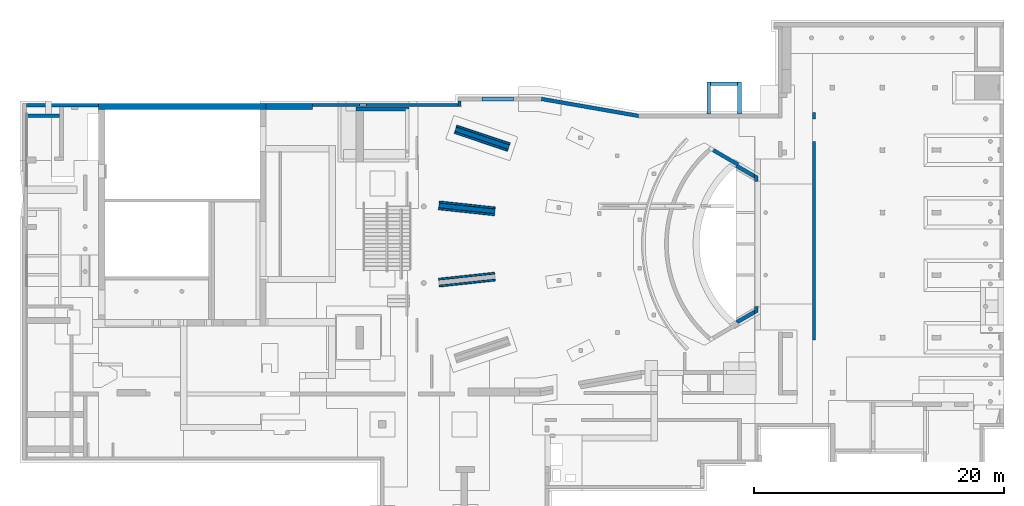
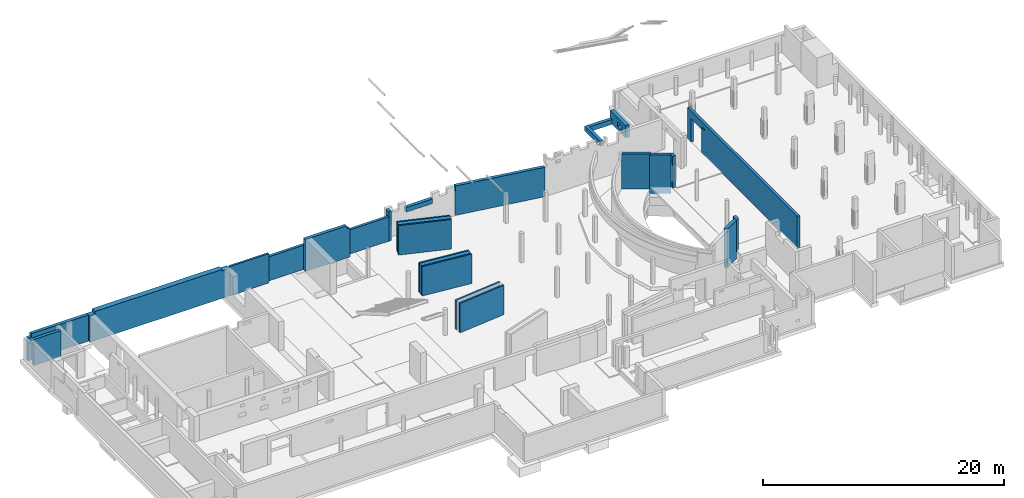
# One storey, part 34 of 42: 26 walls, 14 openings.
"""IFC2X3 building model written with IfcOpenShell, lengths in millimetres."""

import ifcopenshell
import ifcopenshell.guid

model = None  # the IFC model being written
_history = None  # IfcOwnerHistory: only IFC2X3 demands one
_inside = {}  # id of a spatial element -> (the spatial element, [elements in it])
_under = {}  # id of a project, library or spatial element -> (it, [spatial elements below it])
_declared = {}  # id of a project -> (the project, [libraries it declares])
_typed = {}  # id of a type object -> (the type object, [elements of that type])
_made_of = {}  # id of a material, layer set ... -> (it, [elements and type objects made of it])


def new_model(schema):
    """Start an empty IFC model of exactly this schema.

    Asked for "IFC4X3", IfcOpenShell would pick the latest addendum, in which some entities
    have other attributes; the version numbers below select the first issue.
    IFC2X3 requires an IfcOwnerHistory on every rooted entity: one is made here for all.
    """
    global model, _history
    if schema == "IFC4X3":
        model = ifcopenshell.file(schema_version=(4, 3, 0, 0))
    else:
        model = ifcopenshell.file(schema=schema)
    _inside.clear()
    _under.clear()
    _declared.clear()
    _typed.clear()
    _made_of.clear()
    _history = None
    if model.schema == "IFC2X3":
        org = make("IfcOrganization", Name="unknown")
        user = make(
            "IfcPersonAndOrganization",
            ThePerson=make("IfcPerson", FamilyName="unknown"),
            TheOrganization=org,
        )
        app = make(
            "IfcApplication",
            ApplicationDeveloper=org,
            Version="unknown",
            ApplicationFullName="unknown",
            ApplicationIdentifier="unknown",
        )
        _history = make(
            "IfcOwnerHistory",
            OwningUser=user,
            OwningApplication=app,
            ChangeAction="ADDED",
            CreationDate=0,
        )
    return model


def make(cls, **values):
    """One entity of the class cls with the attributes given. An attribute that is None is left unset."""
    return model.create_entity(
        cls, **{name: value for name, value in values.items() if value is not None}
    )


def entity(cls, *values):
    """Any entity or typed value of the class cls, its attributes in the order of the schema. None: left unset."""
    e = model.create_entity(cls)
    for i, value in enumerate(values):
        if value is not None:
            e[i] = value
    return e


def rooted(cls, **values):
    """An entity with a GlobalId (a new one), such as an element, a storey or a relation."""
    return make(cls, GlobalId=ifcopenshell.guid.new(), OwnerHistory=_history, **values)


def si_unit(unit_type, name, prefix=None):
    """IfcSIUnit, for example si_unit("LENGTHUNIT", "METRE", prefix="MILLI")."""
    return make("IfcSIUnit", UnitType=unit_type, Prefix=prefix, Name=name)


def converted_unit(unit_type, name, factor, base, dimensions=None, offset=None):
    """IfcConversionBasedUnit, such as the inch: factor (a typed value) times the base unit."""
    return make(
        "IfcConversionBasedUnit"
        if offset is None
        else "IfcConversionBasedUnitWithOffset",
        ConversionOffset=offset,
        Dimensions=None
        if dimensions is None
        else entity("IfcDimensionalExponents", *dimensions),
        UnitType=unit_type,
        Name=name,
        ConversionFactor=make(
            "IfcMeasureWithUnit", ValueComponent=factor, UnitComponent=base
        ),
    )


def derived_unit(unit_type, elements):
    """IfcDerivedUnit: a product of units, each with its exponent."""
    return make(
        "IfcDerivedUnit",
        Elements=[
            make("IfcDerivedUnitElement", Unit=unit, Exponent=power)
            for unit, power in elements
        ],
        UnitType=unit_type,
    )


def assignment(units):
    """IfcUnitAssignment: the units of a project."""
    return None if units is None else make("IfcUnitAssignment", Units=units)


def point(xyz):
    """IfcCartesianPoint."""
    return None if xyz is None else make("IfcCartesianPoint", Coordinates=xyz)


def direction(xyz):
    """IfcDirection."""
    return None if xyz is None else make("IfcDirection", DirectionRatios=xyz)


def frame(location, z_axis=None, x_axis=None):
    """IfcAxis2Placement3D, a coordinate frame: its origin and axes. An axis left out is left unset."""
    return make(
        "IfcAxis2Placement3D",
        Location=point(location),
        Axis=direction(z_axis),
        RefDirection=direction(x_axis),
    )


def frame_2d(location, x_axis=None):
    """IfcAxis2Placement2D, a coordinate frame in the plane: its origin and x axis."""
    return make(
        "IfcAxis2Placement2D", Location=point(location), RefDirection=direction(x_axis)
    )


def origin():
    """The frame at (0, 0, 0) with its axes left unset."""
    return frame((0.0, 0.0, 0.0))


def origin_2d_with_axis():
    """The frame at (0, 0) in the plane with the x axis (1, 0) written out."""
    return frame_2d((0.0, 0.0), x_axis=(1.0, 0.0))


def place(relative_to, where):
    """IfcLocalPlacement: puts the frame where relative to a parent placement (None: the world)."""
    return make(
        "IfcLocalPlacement", PlacementRelTo=relative_to, RelativePlacement=where
    )


def context(
    kind, dimensions, precision=None, world=None, true_north=None, identifier=None
):
    """IfcGeometricRepresentationContext, for example the 3D "Model" context."""
    return make(
        "IfcGeometricRepresentationContext",
        ContextIdentifier=identifier,
        ContextType=kind,
        CoordinateSpaceDimension=dimensions,
        Precision=precision,
        WorldCoordinateSystem=world,
        TrueNorth=true_north,
    )


def subcontext(parent, identifier, kind, view, scale=None):
    """IfcGeometricRepresentationSubContext, for example "Body" below "Model"."""
    return make(
        "IfcGeometricRepresentationSubContext",
        ContextIdentifier=identifier,
        ContextType=kind,
        ParentContext=parent,
        TargetScale=scale,
        TargetView=view,
    )


def project(units=None, contexts=None):
    """IfcProject with its units and contexts."""
    return rooted(
        "IfcProject",
        Name="project",
        RepresentationContexts=contexts,
        UnitsInContext=assignment(units),
    )


def spatial(cls, under=None, at=None, **own):
    """A site, building, storey or space (cls), placed at a placement, below another one or the project."""
    s = rooted(cls, ObjectPlacement=at, **own)
    if under is not None:
        _under.setdefault(under.id(), (under, []))[1].append(s)
    return s


def polyline(points):
    """IfcPolyline through the points."""
    return make("IfcPolyline", Points=[point(p) for p in points])


def circle_curve(where, radius):
    """IfcCircle in the frame where."""
    return make("IfcCircle", Position=where, Radius=radius)


def parameter(value):
    """IfcParameterValue: where a trimmed curve begins or ends, as a parameter of its basis curve."""
    return model.create_entity("IfcParameterValue", value)


def trimmed(basis, trim1, trim2, sense, master):
    """IfcTrimmedCurve: the piece of a basis curve between two trims."""
    return make(
        "IfcTrimmedCurve",
        BasisCurve=basis,
        Trim1=trim1,
        Trim2=trim2,
        SenseAgreement=sense,
        MasterRepresentation=master,
    )


def segment(curve, same_sense, transition):
    """IfcCompositeCurveSegment."""
    return make(
        "IfcCompositeCurveSegment",
        Transition=transition,
        SameSense=same_sense,
        ParentCurve=curve,
    )


def composite_curve(segments, self_intersect=None):
    """IfcCompositeCurve: segments joined end to end."""
    return make("IfcCompositeCurve", Segments=segments, SelfIntersect=self_intersect)


def profile(cls, at=None, kind="AREA", **sizes):
    """A parametric profile (cls). Its sizes go by their IFC names, for example OverallWidth=200.0."""
    return make(cls, ProfileType=kind, Position=at, **sizes)


def rectangle(**sizes):
    """IfcRectangleProfileDef."""
    return profile("IfcRectangleProfileDef", **sizes)


def outline(outer, holes=None, kind="AREA"):
    """IfcArbitraryClosedProfileDef: a profile drawn as a closed curve; with holes, ...WithVoids."""
    if holes is None:
        return make("IfcArbitraryClosedProfileDef", ProfileType=kind, OuterCurve=outer)
    return make(
        "IfcArbitraryProfileDefWithVoids",
        ProfileType=kind,
        OuterCurve=outer,
        InnerCurves=holes,
    )


def extrude(swept, where, along, depth):
    """IfcExtrudedAreaSolid: the profile swept, set in the frame where, extruded along a direction by depth."""
    return make(
        "IfcExtrudedAreaSolid",
        SweptArea=swept,
        Position=where,
        ExtrudedDirection=direction(along),
        Depth=depth,
    )


def clip(a, b, op="DIFFERENCE"):
    """IfcBooleanClippingResult: the solid a cut by the half space b."""
    return make(
        "IfcBooleanClippingResult", Operator=op, FirstOperand=a, SecondOperand=b
    )


def bounded_halfspace(plane, agree, where, boundary):
    """IfcPolygonalBoundedHalfSpace: a half space limited to a polygon's prism."""
    return make(
        "IfcPolygonalBoundedHalfSpace",
        BaseSurface=make("IfcPlane", Position=plane),
        AgreementFlag=agree,
        Position=where,
        PolygonalBoundary=boundary,
    )


def shape(context_of_items, identifier, shape_type, items):
    """IfcShapeRepresentation: the items that make up one representation, for example the "Body"."""
    return make(
        "IfcShapeRepresentation",
        ContextOfItems=context_of_items,
        RepresentationIdentifier=identifier,
        RepresentationType=shape_type,
        Items=items,
    )


def material(Name=None, Category=None):
    """IfcMaterial."""
    return make("IfcMaterial", Name=Name, Category=Category)


def layer(
    of_material, thickness, ventilated=None, Name=None, Category=None, Priority=None
):
    """IfcMaterialLayer: one layer of a wall or slab, of a material (None: an air gap)."""
    return make(
        "IfcMaterialLayer",
        Material=of_material,
        LayerThickness=thickness,
        IsVentilated=ventilated,
        Name=Name,
        Category=Category,
        Priority=Priority,
    )


def layer_set(layers, Name=None):
    """IfcMaterialLayerSet."""
    return make("IfcMaterialLayerSet", MaterialLayers=layers, LayerSetName=Name)


def layer_usage(for_layer_set, set_direction, sense, offset, extent=None):
    """IfcMaterialLayerSetUsage: how a layer set lies in its element."""
    return make(
        "IfcMaterialLayerSetUsage",
        ForLayerSet=for_layer_set,
        LayerSetDirection=set_direction,
        DirectionSense=sense,
        OffsetFromReferenceLine=offset,
        ReferenceExtent=extent,
    )


def made_of(thing, what):
    """Note that an element or type object is made of a material, layer set ...; save() writes the relation."""
    if what is not None:
        _made_of.setdefault(what.id(), (what, []))[1].append(thing)
    return thing


def type_object(cls, material=None, **own):
    """A type object (cls), such as IfcWallType, which elements share."""
    return made_of(rooted(cls, **own), material)


def element(
    cls,
    number,
    at=None,
    inside=None,
    cuts=None,
    type_object=None,
    material=None,
    context=None,
    identifier="Body",
    shape_type=None,
    held_by="IfcProductDefinitionShape",
    body=None,
    shapes=None,
    **own,
):
    """One element of the class cls, such as IfcWall. Its Tag is "e" and its number.

    at: its placement. inside: the storey or other place that contains it. cuts: it is an
    opening in that element (IfcRelVoidsElement). A single representation is given by context,
    identifier, shape_type and body (its items); several are given by shapes. held_by: the class
    of the entity that holds the representations. save() writes the other relations.
    """
    e = rooted(cls, Tag="e%d" % number, ObjectPlacement=at, **own)
    if body is not None:
        shapes = [shape(context, identifier, shape_type, body)]
    if shapes is not None:
        e.Representation = make(held_by, Representations=shapes)
    if inside is not None:
        _inside.setdefault(inside.id(), (inside, []))[1].append(e)
    if cuts is not None:
        rooted(
            "IfcRelVoidsElement", RelatingBuildingElement=cuts, RelatedOpeningElement=e
        )
    if type_object is not None:
        _typed.setdefault(type_object.id(), (type_object, []))[1].append(e)
    return made_of(e, material)


def aggregate(whole, parts):
    """IfcRelAggregates: a whole, such as a stair, and the parts it consists of."""
    return rooted("IfcRelAggregates", RelatingObject=whole, RelatedObjects=parts)


def save(model, path):
    """Write the relations noted so far, then the file.

    IfcRelAggregates (storeys below a building ...), IfcRelContainedInSpatialStructure (elements
    in a storey), IfcRelDefinesByType, IfcRelAssociatesMaterial and IfcRelDeclares: one each for
    every whole, place, type object, material and project.
    """
    for whole, parts in _under.values():
        aggregate(whole, parts)
    for where, things in _inside.values():
        rooted(
            "IfcRelContainedInSpatialStructure",
            RelatedElements=things,
            RelatingStructure=where,
        )
    for kind, things in _typed.values():
        rooted("IfcRelDefinesByType", RelatedObjects=things, RelatingType=kind)
    for what, things in _made_of.values():
        rooted("IfcRelAssociatesMaterial", RelatedObjects=things, RelatingMaterial=what)
    for by, libraries in _declared.values():
        rooted("IfcRelDeclares", RelatingContext=by, RelatedDefinitions=libraries)
    model.write(path)


model = new_model("IFC2X3")

# Units and contexts
model_context = context("Model", 3, precision=0.01, world=origin(), true_north=direction((6.12303176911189e-17, 1.0)))
body_context = subcontext(model_context, "Body", "Model", "MODEL_VIEW")
ifc_project = project(units=[si_unit("LENGTHUNIT", "METRE", prefix="MILLI"), si_unit("AREAUNIT", "SQUARE_METRE", prefix="MILLI"), si_unit("VOLUMEUNIT", "CUBIC_METRE"), converted_unit("PLANEANGLEUNIT", "DEGREE", entity("IfcRatioMeasure", 0.0174532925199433), si_unit("PLANEANGLEUNIT", "RADIAN"), dimensions=[0, 0, 0, 0, 0, 0, 0]), si_unit("MASSUNIT", "GRAM", prefix="KILO"), derived_unit("MASSDENSITYUNIT", [(si_unit("MASSUNIT", "GRAM", prefix="KILO"), 1), (si_unit("LENGTHUNIT", "METRE"), -3)]), derived_unit("MOMENTOFINERTIAUNIT", [(si_unit("LENGTHUNIT", "METRE"), 4)]), si_unit("TIMEUNIT", "SECOND"), si_unit("FREQUENCYUNIT", "HERTZ"), si_unit("THERMODYNAMICTEMPERATUREUNIT", "DEGREE_CELSIUS"), derived_unit("THERMALTRANSMITTANCEUNIT", [(si_unit("MASSUNIT", "GRAM", prefix="KILO"), 1), (si_unit("THERMODYNAMICTEMPERATUREUNIT", "KELVIN"), -1), (si_unit("TIMEUNIT", "SECOND"), -3)]), derived_unit("VOLUMETRICFLOWRATEUNIT", [(si_unit("LENGTHUNIT", "METRE"), 3), (si_unit("TIMEUNIT", "SECOND"), -1)]), si_unit("ELECTRICCURRENTUNIT", "AMPERE"), si_unit("ELECTRICVOLTAGEUNIT", "VOLT"), si_unit("POWERUNIT", "WATT"), si_unit("FORCEUNIT", "NEWTON", prefix="KILO"), si_unit("ILLUMINANCEUNIT", "LUX"), si_unit("LUMINOUSFLUXUNIT", "LUMEN"), si_unit("LUMINOUSINTENSITYUNIT", "CANDELA"), derived_unit("USERDEFINED", [(si_unit("MASSUNIT", "GRAM", prefix="KILO"), -1), (si_unit("LENGTHUNIT", "METRE"), -2), (si_unit("TIMEUNIT", "SECOND"), 3), (si_unit("LUMINOUSFLUXUNIT", "LUMEN"), 1)]), derived_unit("LINEARVELOCITYUNIT", [(si_unit("LENGTHUNIT", "METRE"), 1), (si_unit("TIMEUNIT", "SECOND"), -1)]), si_unit("PRESSUREUNIT", "PASCAL"), derived_unit("USERDEFINED", [(si_unit("LENGTHUNIT", "METRE"), -2), (si_unit("MASSUNIT", "GRAM", prefix="KILO"), 1), (si_unit("TIMEUNIT", "SECOND"), -2)]), derived_unit("LINEARFORCEUNIT", [(si_unit("MASSUNIT", "GRAM", prefix="KILO"), 1), (si_unit("LENGTHUNIT", "METRE"), 1), (si_unit("TIMEUNIT", "SECOND"), -2), (si_unit("LENGTHUNIT", "METRE"), -1)]), derived_unit("PLANARFORCEUNIT", [(si_unit("MASSUNIT", "GRAM", prefix="KILO"), 1), (si_unit("LENGTHUNIT", "METRE"), 1), (si_unit("TIMEUNIT", "SECOND"), -2), (si_unit("LENGTHUNIT", "METRE"), -2)])], contexts=[model_context])

# Site, building, storey
site_placement = place(None, origin())
site = spatial("IfcSite", under=ifc_project, at=site_placement, Name="Theater aan de Parade", CompositionType="ELEMENT")
building_placement = place(site_placement, origin())
building = spatial("IfcBuilding", under=site, at=building_placement, Name="Theater aan de Parade", CompositionType="ELEMENT")
storey_placement = place(building_placement, frame((0.0, 0.0, -3300.0)))
storey = spatial("IfcBuildingStorey", under=building, at=storey_placement, Name="-1 kelder", CompositionType="ELEMENT", Elevation=-3300.0)

# Wall
ifc_material_1 = material(Name="00_PBT_MAT_beton t.p.g.")
ifc_layer_1 = layer(ifc_material_1, 250.0)
ifc_layer_set_1 = layer_set([ifc_layer_1], Name="Basic Wall:16_PBT_WA_beton t.p.g._d=250_bestaand")
ifc_layer_usage_1 = layer_usage(ifc_layer_set_1, "AXIS2", "NEGATIVE", 125.0)
wall_type_1 = type_object("IfcWallType", Name="Basic Wall:16_PBT_WA_beton t.p.g._d=250_bestaand", PredefinedType="STANDARD", material=ifc_layer_set_1)
wall_1_placement = place(storey_placement, frame((45150.0, 43450.0, -40.0), z_axis=(0.0, 0.0, 1.0), x_axis=(0.0, 1.0, 0.0)))
element("IfcWallStandardCase", 1, at=wall_1_placement, inside=storey, type_object=wall_type_1, material=ifc_layer_usage_1, Name="Basic Wall:16_PBT_WA_beton t.p.g._d=250_bestaand", ObjectType="Basic Wall:16_PBT_WA_beton t.p.g._d=250_bestaand", context=body_context, shape_type="SweptSolid", body=[
    extrude(rectangle(XDim=460.000000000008, YDim=249.999999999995, at=frame_2d((230.000000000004, 3.5527136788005e-13), x_axis=(-1.0, 0.0))), origin(), (0.0, 0.0, 1.0), 2980.0),
])

# Wall, opening
ifc_layer_usage_2 = layer_usage(ifc_layer_set_1, "AXIS2", "NEGATIVE", 125.0)
wall_2_placement = place(storey_placement, frame((33400.0, 43575.0, -40.0)))
wall_2 = element("IfcWallStandardCase", 2, at=wall_2_placement, inside=storey, type_object=wall_type_1, material=ifc_layer_usage_2, Name="Basic Wall:16_PBT_WA_beton t.p.g._d=250_bestaand", ObjectType="Basic Wall:16_PBT_WA_beton t.p.g._d=250_bestaand", context=body_context, shape_type="SweptSolid", body=[
    extrude(rectangle(XDim=11625.0, YDim=249.999999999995, at=frame_2d((5812.49999999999, 0.0), x_axis=(-1.0, 0.0))), origin(), (0.0, 0.0, 1.0), 2450.00000000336),
])
opening_1_placement = place(wall_2_placement, origin())
element("IfcOpeningElement", 3, at=opening_1_placement, cuts=wall_2, Name="Basic Wall:16_PBT_WA_beton t.p.g._d=250_bestaand", ObjectType="Opening", context=body_context, shape_type="SweptSolid", body=[
    extrude(rectangle(XDim=700.000000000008, YDim=525.773933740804, at=frame_2d((0.0, -2.8421709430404e-13), x_axis=(0.0, 1.0))), frame((4016.74509695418, 125.0, 1490.0), z_axis=(0.0, -1.0, 0.0), x_axis=(-1.0, 0.0, 0.0)), (0.0, 0.0, 1.0), 250.0),
])

# Wall
ifc_layer_2 = layer(ifc_material_1, 300.0)
ifc_layer_set_2 = layer_set([ifc_layer_2], Name="Basic Wall:16_PBT_WA_beton t.p.g._d=300_bestaand")
ifc_layer_usage_3 = layer_usage(ifc_layer_set_2, "AXIS2", "NEGATIVE", 150.0)
wall_type_2 = type_object("IfcWallType", Name="Basic Wall:16_PBT_WA_beton t.p.g._d=300_bestaand", PredefinedType="STANDARD", material=ifc_layer_set_2)
wall_3_placement = place(storey_placement, frame((51670.1949934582, 44062.2454299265, -40.0), z_axis=(0.0, 0.0, 1.0), x_axis=(0.985030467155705, -0.172380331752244, 0.0)))
element("IfcWallStandardCase", 4, at=wall_3_placement, inside=storey, type_object=wall_type_2, material=ifc_layer_usage_3, Name="Basic Wall:16_PBT_WA_beton t.p.g._d=300_bestaand", ObjectType="Basic Wall:16_PBT_WA_beton t.p.g._d=300_bestaand", context=body_context, shape_type="SweptSolid", body=[
    extrude(outline(polyline([(7915.58321058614, -150.0), (7889.53116736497, 150.0), (0.0, 150.0), (26.0520432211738, -150.0), (7915.58321058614, -150.0)])), origin(), (0.0, 0.0, 1.0), 2980.0),
])

# Wall, opening
ifc_layer_usage_4 = layer_usage(ifc_layer_set_2, "AXIS2", "POSITIVE", -150.0)
wall_4_placement = place(storey_placement, frame((16275.0, 43550.0, -40.0), z_axis=(0.0, 0.0, 1.0), x_axis=(-1.0, 0.0, 0.0)))
wall_4 = element("IfcWallStandardCase", 5, at=wall_4_placement, inside=storey, type_object=wall_type_2, material=ifc_layer_usage_4, Name="Basic Wall:16_PBT_WA_beton t.p.g._d=300_bestaand", ObjectType="Basic Wall:16_PBT_WA_beton t.p.g._d=300_bestaand", context=body_context, shape_type="SweptSolid", body=[
    extrude(rectangle(XDim=5785.00000000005, YDim=300.000000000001, at=frame_2d((2892.50000000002, 1.47792889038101e-12), x_axis=(-1.0, 0.0))), origin(), (0.0, 0.0, 1.0), 2650.00000000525),
])
opening_2_placement = place(wall_4_placement, origin())
element("IfcOpeningElement", 6, at=opening_2_placement, cuts=wall_4, Name="Basic Wall:16_PBT_WA_beton t.p.g._d=300_bestaand", ObjectType="Opening", context=body_context, shape_type="SweptSolid", body=[
    extrude(rectangle(XDim=350.000000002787, YDim=314.11255372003, at=origin_2d_with_axis()), frame((5627.94372314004, 150.0, 2475.0), z_axis=(0.0, -1.0, 0.0), x_axis=(0.0, 0.0, 1.0)), (0.0, 0.0, 1.0), 300.0),
])

# Wall, openings
ifc_layer_3 = layer(ifc_material_1, 250.0)
ifc_layer_set_3 = layer_set([ifc_layer_3], Name="Basic Wall:28_PBT_WA_beton t.p.g._d=250_bestaand")
ifc_layer_usage_5 = layer_usage(ifc_layer_set_3, "AXIS2", "NEGATIVE", 125.0)
wall_type_3 = type_object("IfcWallType", Name="Basic Wall:28_PBT_WA_beton t.p.g._d=250_bestaand", PredefinedType="STANDARD", material=ifc_layer_set_3)
wall_5_placement = place(storey_placement, frame((73475.0, 42970.0, 660.0), z_axis=(0.0, 0.0, 1.0), x_axis=(0.0, -1.0, 0.0)))
wall_5 = element("IfcWallStandardCase", 7, at=wall_5_placement, inside=storey, type_object=wall_type_3, material=ifc_layer_usage_5, Name="Basic Wall:28_PBT_WA_beton t.p.g._d=250_bestaand", ObjectType="Basic Wall:28_PBT_WA_beton t.p.g._d=250_bestaand", context=body_context, shape_type="SweptSolid", body=[
    extrude(rectangle(XDim=18175.0, YDim=249.999999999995, at=frame_2d((9087.5, -8.17124146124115e-13), x_axis=(-1.0, 0.0))), origin(), (0.0, 0.0, 1.0), 3220.0),
])
opening_3_placement = place(wall_5_placement, origin())
element("IfcOpeningElement", 8, at=opening_3_placement, cuts=wall_5, Name="Basic Wall:28_PBT_WA_beton t.p.g._d=250_bestaand", ObjectType="Opening", context=body_context, shape_type="SweptSolid", body=[
    extrude(rectangle(XDim=150.000000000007, YDim=399.999999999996, at=frame_2d((0.0, 0.0), x_axis=(0.0, 1.0))), frame((2585.0, 125.0, 2645.0), z_axis=(0.0, -1.0, 0.0), x_axis=(1.0, 0.0, 0.0)), (0.0, 0.0, 1.0), 250.0),
])
opening_4_placement = place(wall_5_placement, origin())
element("IfcOpeningElement", 9, at=opening_4_placement, cuts=wall_5, Name="Basic Wall:28_PBT_WA_beton t.p.g._d=250_bestaand", ObjectType="Opening", context=body_context, shape_type="SweptSolid", body=[
    extrude(rectangle(XDim=2420.0, YDim=1800.00000000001, at=frame_2d((0.0, 1.59161572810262e-12), x_axis=(0.0, 1.0))), frame((1429.15767369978, 125.0, 1210.0), z_axis=(0.0, -1.0, 0.0), x_axis=(1.0, 0.0, 0.0)), (0.0, 0.0, 1.0), 250.0),
])

# Walls
ifc_layer_4 = layer(ifc_material_1, 300.0)
ifc_layer_set_4 = layer_set([ifc_layer_4], Name="Basic Wall:28_PBT_WA_beton t.p.g._d=300_bestaand")
ifc_layer_usage_6 = layer_usage(ifc_layer_set_4, "AXIS2", "POSITIVE", -150.0)
wall_type_4 = type_object("IfcWallType", Name="Basic Wall:28_PBT_WA_beton t.p.g._d=300_bestaand", PredefinedType="STANDARD", material=ifc_layer_set_4)
wall_6_placement = place(storey_placement, frame((68794.9898681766, 37839.4084183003, -40.0), z_axis=(0.0, 0.0, 1.0), x_axis=(-0.866064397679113, 0.499932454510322, 0.0)))
element("IfcWallStandardCase", 10, at=wall_6_placement, inside=storey, type_object=wall_type_4, material=ifc_layer_usage_6, Name="Basic Wall:28_PBT_WA_beton t.p.g._d=300_bestaand", ObjectType="Basic Wall:28_PBT_WA_beton t.p.g._d=300_bestaand", context=body_context, shape_type="SweptSolid", body=[
    extrude(outline(composite_curve([segment(trimmed(circle_curve(frame_2d((-5762.57646462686, 2878.6113126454), x_axis=(-0.866064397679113, -0.499932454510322)), 8028.67674840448), [parameter(127.842618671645)], [parameter(130.136235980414)], True, "PARAMETER"), True, "CONTINUOUS"), segment(polyline([(1788.20698047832, 150.0), (0.0, 150.0)]), True, "CONTINUOUS"), segment(polyline([(0.0, 150.0), (173.173884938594, -150.0)]), True, "CONTINUOUS"), segment(polyline([(173.173884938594, -150.0), (1672.95739968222, -150.0)]), True, "CONTINUOUS")], self_intersect=False)), origin(), (0.0, 0.0, 1.0), 3920.0),
])
ifc_layer_usage_7 = layer_usage(ifc_layer_set_4, "AXIS2", "POSITIVE", -150.0)
wall_7_placement = place(storey_placement, frame((68870.0, 37465.4466493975, 660.0), z_axis=(0.0, 0.0, 1.0), x_axis=(0.0, 1.0, 0.0)))
element("IfcWallStandardCase", 11, at=wall_7_placement, inside=storey, type_object=wall_type_4, material=ifc_layer_usage_7, Name="Basic Wall:28_PBT_WA_beton t.p.g._d=300_bestaand", ObjectType="Basic Wall:28_PBT_WA_beton t.p.g._d=300_bestaand", context=body_context, shape_type="SweptSolid", body=[
    extrude(outline(polyline([(417.272788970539, -150.0), (590.446673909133, 150.0), (0.0, 150.0), (0.0, -150.0), (417.272788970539, -150.0)])), origin(), (0.0, 0.0, 1.0), 3220.0),
])
ifc_layer_usage_8 = layer_usage(ifc_layer_set_4, "AXIS2", "NEGATIVE", 150.0)
wall_8_placement = place(storey_placement, frame((68794.9898681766, 27050.5915816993, -40.0), z_axis=(0.0, 0.0, 1.0), x_axis=(-0.866064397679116, -0.499932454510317, 0.0)))
element("IfcWallStandardCase", 12, at=wall_8_placement, inside=storey, type_object=wall_type_4, material=ifc_layer_usage_8, Name="Basic Wall:28_PBT_WA_beton t.p.g._d=300_bestaand", ObjectType="Basic Wall:28_PBT_WA_beton t.p.g._d=300_bestaand", context=body_context, shape_type="SweptSolid", body=[
    extrude(outline(composite_curve([segment(trimmed(circle_curve(frame_2d((-5783.02035186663, -2914.02754283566), x_axis=(-0.866064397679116, 0.499932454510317)), 8028.67674840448), [parameter(230.132733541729)], [parameter(232.430553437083)], True, "PARAMETER"), True, "CONTINUOUS"), segment(polyline([(1637.98938718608, 150.0), (173.173884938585, 150.0)]), True, "CONTINUOUS"), segment(polyline([(173.173884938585, 150.0), (0.0, -150.0)]), True, "CONTINUOUS"), segment(polyline([(0.0, -150.0), (9.99864909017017, -150.0)]), True, "CONTINUOUS"), segment(polyline([(9.99864909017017, -150.0), (1754.87073734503, -150.0)]), True, "CONTINUOUS")], self_intersect=False)), origin(), (0.0, 0.0, 1.0), 3920.0),
])
ifc_layer_usage_9 = layer_usage(ifc_layer_set_4, "AXIS2", "NEGATIVE", 150.0)
wall_9_placement = place(storey_placement, frame((68870.0, 27465.4466493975, 660.0), z_axis=(0.0, 0.0, 1.0), x_axis=(0.0, -1.0, 0.0)))
element("IfcWallStandardCase", 13, at=wall_9_placement, inside=storey, type_object=wall_type_4, material=ifc_layer_usage_9, Name="Basic Wall:28_PBT_WA_beton t.p.g._d=300_bestaand", ObjectType="Basic Wall:28_PBT_WA_beton t.p.g._d=300_bestaand", context=body_context, shape_type="SweptSolid", body=[
    extrude(outline(polyline([(631.339972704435, -150.0), (458.166087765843, 150.0), (0.0, 150.0), (0.0, -150.0), (631.339972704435, -150.0)])), origin(), (0.0, 0.0, 1.0), 3220.0),
])

# Wall, opening
ifc_layer_5 = layer(ifc_material_1, 500.0)
ifc_layer_set_5 = layer_set([ifc_layer_5], Name="Basic Wall:16_PBT_WA_beton t.p.g._d=500_bestaand")
ifc_layer_usage_10 = layer_usage(ifc_layer_set_5, "AXIS2", "NEGATIVE", 250.0)
wall_type_5 = type_object("IfcWallType", Name="Basic Wall:16_PBT_WA_beton t.p.g._d=500_bestaand", PredefinedType="STANDARD", material=ifc_layer_set_5)
wall_10_placement = place(storey_placement, frame((16275.0, 43450.0, -40.0)))
wall_10 = element("IfcWallStandardCase", 14, at=wall_10_placement, inside=storey, type_object=wall_type_5, material=ifc_layer_usage_10, Name="Basic Wall:16_PBT_WA_beton t.p.g._d=500_bestaand", ObjectType="Basic Wall:16_PBT_WA_beton t.p.g._d=500_bestaand", context=body_context, shape_type="Clipping", body=[
    clip(clip(extrude(rectangle(XDim=13400.0, YDim=500.000000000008, at=frame_2d((6700.0, -6.82121026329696e-13), x_axis=(-1.0, 0.0))), origin(), (0.0, 0.0, 1.0), 2930.00000000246), bounded_halfspace(frame((500.0, -250.0, 2650.0), z_axis=(0.0, 0.0, -1.0), x_axis=(1.0, 0.0, 0.0)), True, frame((500.0, -250.0, 2650.0), z_axis=(0.0, 0.0, -1.0), x_axis=(1.0, 0.0, 0.0)), polyline([(0.0, 0.0), (-500.0, 0.0), (-500.0, -200.0), (-500.0, -500.0), (0.0, -500.0), (0.0, 0.0)]))), bounded_halfspace(frame((500.0, 250.0, 2650.0), z_axis=(1.0, 0.0, 0.0), x_axis=(0.0, 0.0, 1.0)), True, frame((500.0, 250.0, 2650.0), z_axis=(1.0, 0.0, 0.0), x_axis=(0.0, 0.0, 1.0)), polyline([(0.0, 0.0), (280.0, 0.0), (280.0, 500.0), (130.0, 500.0), (0.0, 500.0), (0.0, 0.0)]))),
])
opening_5_placement = place(wall_10_placement, origin())
element("IfcOpeningElement", 15, at=opening_5_placement, cuts=wall_10, Name="Basic Wall:16_PBT_WA_beton t.p.g._d=500_bestaand", ObjectType="Opening", context=body_context, shape_type="SweptSolid", body=[
    extrude(rectangle(XDim=150.000000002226, YDim=736.102433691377, at=frame_2d((0.0, 2.1600499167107e-12), x_axis=(1.0, 0.0))), frame((13031.9487831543, 250.0, 2855.0), z_axis=(0.0, -1.0, 0.0), x_axis=(0.0, 0.0, 1.0)), (0.0, 0.0, 1.0), 500.0),
])

# Walls
ifc_layer_usage_11 = layer_usage(ifc_layer_set_5, "AXIS2", "NEGATIVE", 250.0)
wall_11_placement = place(storey_placement, frame((29675.0, 43450.0, -40.0)))
element("IfcWallStandardCase", 16, at=wall_11_placement, inside=storey, type_object=wall_type_5, material=ifc_layer_usage_11, Name="Basic Wall:16_PBT_WA_beton t.p.g._d=500_bestaand", ObjectType="Basic Wall:16_PBT_WA_beton t.p.g._d=500_bestaand", context=body_context, shape_type="Clipping", body=[
    clip(clip(extrude(rectangle(XDim=3725.00000000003, YDim=500.000000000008, at=frame_2d((1862.50000000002, 2.98427949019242e-13), x_axis=(-1.0, 0.0))), origin(), (0.0, 0.0, 1.0), 2960.00000000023), bounded_halfspace(frame((0.0, -50.0, 2450.0), z_axis=(0.0, 0.0, -1.0), x_axis=(0.994164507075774, 0.107874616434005, 0.0)), True, frame((0.0, -50.0, 2450.0), z_axis=(0.0, 0.0, -1.0), x_axis=(0.994164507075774, 0.107874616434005, 0.0)), polyline([(0.0, 0.0), (32.3623849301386, -298.2493521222), (3735.62517378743, 103.583594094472), (3703.26278885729, 401.832946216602), (0.0, 0.0)]))), bounded_halfspace(frame((3725.0, -50.0, 2450.0), z_axis=(0.0, -1.0, 0.0), x_axis=(0.0, 0.0, 1.0)), True, frame((3725.0, -50.0, 2450.0), z_axis=(0.0, -1.0, 0.0), x_axis=(0.0, 0.0, 1.0)), polyline([(0.0, 0.0), (510.0, 0.0), (510.0, 3725.0), (0.0, 3725.0), (0.0, 0.0)]))),
])
ifc_layer_6 = layer(ifc_material_1, 400.0)
ifc_layer_set_6 = layer_set([ifc_layer_6], Name="Basic Wall:28_PBT_WA_beton t.p.g._d=400_bestaand")
ifc_layer_usage_12 = layer_usage(ifc_layer_set_6, "AXIS2", "POSITIVE", -200.0)
wall_type_6 = type_object("IfcWallType", Name="Basic Wall:28_PBT_WA_beton t.p.g._d=400_bestaand", PredefinedType="STANDARD", material=ifc_layer_set_6)
wall_12_placement = place(storey_placement, frame((49080.5625209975, 40204.4162696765, -40.0), z_axis=(0.0, 0.0, 1.0), x_axis=(-0.948323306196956, 0.317305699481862, 0.0)))
element("IfcWallStandardCase", 17, at=wall_12_placement, inside=storey, type_object=wall_type_6, material=ifc_layer_usage_12, Name="Basic Wall:28_PBT_WA_beton t.p.g._d=400_bestaand", ObjectType="Basic Wall:28_PBT_WA_beton t.p.g._d=400_bestaand", context=body_context, shape_type="SweptSolid", body=[
    extrude(rectangle(XDim=4499.99999999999, YDim=400.000000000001, at=frame_2d((2250.0, 7.67386154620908e-13), x_axis=(-1.0, 0.0))), origin(), (0.0, 0.0, 1.0), 2980.0),
])
ifc_layer_usage_13 = layer_usage(ifc_layer_set_6, "AXIS2", "POSITIVE", -200.0)
wall_13_placement = place(storey_placement, frame((47963.1563979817, 35065.5810173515, -40.0), z_axis=(0.0, 0.0, 1.0), x_axis=(-0.994276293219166, 0.106839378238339, 0.0)))
element("IfcWallStandardCase", 18, at=wall_13_placement, inside=storey, type_object=wall_type_6, material=ifc_layer_usage_13, Name="Basic Wall:28_PBT_WA_beton t.p.g._d=400_bestaand", ObjectType="Basic Wall:28_PBT_WA_beton t.p.g._d=400_bestaand", context=body_context, shape_type="SweptSolid", body=[
    extrude(rectangle(XDim=4500.00000000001, YDim=399.999999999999, at=frame_2d((2250.0, -1.4210854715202e-13), x_axis=(-1.0, 0.0))), origin(), (0.0, 0.0, 1.0), 2980.0),
])
ifc_material_2 = material(Name="00_PBT_MAT_beton t.p.g._C30/37")
ifc_layer_7 = layer(ifc_material_2, 300.0)
ifc_layer_set_7 = layer_set([ifc_layer_7], Name="Basic Wall:28_PBT_WA_beton t.p.g._d=300_C30/37")
ifc_layer_usage_14 = layer_usage(ifc_layer_set_7, "AXIS2", "POSITIVE", -150.0)
wall_type_7 = type_object("IfcWallType", Name="Basic Wall:28_PBT_WA_beton t.p.g._d=300_C30/37", PredefinedType="STANDARD", material=ifc_layer_set_7)
wall_14_placement = place(storey_placement, frame((13154.8570025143, 42720.0, -40.0), z_axis=(0.0, 0.0, 1.0), x_axis=(-1.0, 0.0, 0.0)))
element("IfcWallStandardCase", 19, at=wall_14_placement, inside=storey, type_object=wall_type_7, material=ifc_layer_usage_14, Name="Basic Wall:28_PBT_WA_beton t.p.g._d=300_C30/37", ObjectType="Basic Wall:28_PBT_WA_beton t.p.g._d=300_C30/37", context=body_context, shape_type="SweptSolid", body=[
    extrude(rectangle(XDim=2600.74444879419, YDim=300.000000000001, at=frame_2d((1300.3722243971, 1.10844666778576e-12), x_axis=(-1.0, 0.0))), origin(), (0.0, 0.0, 1.0), 2650.00000000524),
])
ifc_layer_usage_15 = layer_usage(ifc_layer_set_7, "AXIS2", "NEGATIVE", 150.0)
wall_15_placement = place(storey_placement, frame((67418.1325996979, 38800.6259859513, 310.0), z_axis=(0.0, 0.0, 1.0), x_axis=(-0.863190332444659, 0.504878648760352, 0.0)))
element("IfcWallStandardCase", 20, at=wall_15_placement, inside=storey, type_object=wall_type_7, material=ifc_layer_usage_15, Name="Basic Wall:28_PBT_WA_beton t.p.g._d=300_C30/37", ObjectType="Basic Wall:28_PBT_WA_beton t.p.g._d=300_C30/37", context=body_context, shape_type="Clipping", body=[
    clip(extrude(outline(composite_curve([segment(trimmed(circle_curve(frame_2d((-6872.62614341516, 3337.36799052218), x_axis=(-0.863190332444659, -0.504878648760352)), 9827.00108998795), [parameter(128.890850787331)], [parameter(130.750625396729)], True, "PARAMETER"), True, "CONTINUOUS"), segment(polyline([(2423.1059802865, 150.0), (0.0, 150.0)]), True, "CONTINUOUS"), segment(polyline([(0.0, 150.0), (0.0, -5.85941584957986)]), True, "CONTINUOUS"), segment(polyline([(0.0, -5.85941584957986), (0.0, -150.0)]), True, "CONTINUOUS"), segment(polyline([(0.0, -150.0), (2314.76820543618, -150.0)]), True, "CONTINUOUS")], self_intersect=False)), origin(), (0.0, 0.0, 1.0), 3570.0000000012), bounded_halfspace(frame((333.419913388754, -150.0, 3570.0), z_axis=(0.0, 0.0, -1.0), x_axis=(-0.86319033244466, -0.50487864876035, 0.0)), True, frame((333.419913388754, -150.0, 3570.0)), composite_curve([segment(polyline([(0.0, 0.0), (603914.959416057, 0.0)]), True, "CONTINUOUS"), segment(trimmed(circle_curve(frame_2d((-2196402.83811383, 1062949.76351116), x_axis=(-0.863190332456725, -0.504878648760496)), 9827.00108998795), [parameter(128.890850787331)], [parameter(130.750625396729)], True, "PARAMETER"), True, "CONTINUOUS"), segment(polyline([(636936.313190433, 91440.0), (-53483.1101640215, 91440.0)]), True, "CONTINUOUS"), segment(polyline([(-53483.1101640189, 91440.0), (-1.30837608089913e-09, 2.61967927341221e-09)]), True, "CONTINUOUS")], self_intersect=False))),
])

# Wall, opening
ifc_material_3 = material(Name="00_PBT_MAT_beton t.p.g._C53/65")
ifc_layer_8 = layer(ifc_material_3, 350.0)
ifc_layer_set_8 = layer_set([ifc_layer_8], Name="Basic Wall:16_PBT_WA_beton t.p.g._d=350_C53/65")
ifc_layer_usage_16 = layer_usage(ifc_layer_set_8, "AXIS2", "NEGATIVE", 175.0)
wall_type_8 = type_object("IfcWallType", Name="Basic Wall:16_PBT_WA_beton t.p.g._d=350_C53/65", PredefinedType="STANDARD", material=ifc_layer_set_8)
wall_16_placement = place(storey_placement, frame((67531.256100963, 42850.0, 2960.0), z_axis=(0.0, 0.0, 1.0), x_axis=(0.0, 1.0, 0.0)))
wall_16 = element("IfcWallStandardCase", 21, at=wall_16_placement, inside=storey, type_object=wall_type_8, material=ifc_layer_usage_16, Name="Basic Wall:16_PBT_WA_beton t.p.g._d=350_C53/65", ObjectType="Basic Wall:16_PBT_WA_beton t.p.g._d=350_C53/65", context=body_context, shape_type="SweptSolid", body=[
    extrude(rectangle(XDim=2566.99982429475, YDim=350.000000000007, at=frame_2d((1283.49991214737, 1.16529008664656e-12), x_axis=(-1.0, 0.0))), origin(), (0.0, 0.0, 1.0), 1219.99999999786),
])
opening_6_placement = place(wall_16_placement, origin())
element("IfcOpeningElement", 22, at=opening_6_placement, cuts=wall_16, Name="Basic Wall:16_PBT_WA_beton t.p.g._d=350_C53/65", ObjectType="Opening", context=body_context, shape_type="SweptSolid", body=[
    extrude(rectangle(XDim=449.999999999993, YDim=740.000000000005, at=frame_2d((0.0, 0.0), x_axis=(0.0, 1.0))), frame((1025.93762603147, -175.0, 577.45386150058), z_axis=(0.0, 1.0, 0.0), x_axis=(1.0, 0.0, 0.0)), (0.0, 0.0, 1.0), 350.000000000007),
])

# Wall
ifc_layer_9 = layer(ifc_material_2, 300.0)
ifc_layer_set_9 = layer_set([ifc_layer_9], Name="Basic Wall:16_PBT_WA_beton t.p.g._d=300_C30/37")
ifc_layer_usage_17 = layer_usage(ifc_layer_set_9, "AXIS2", "POSITIVE", -150.0)
wall_type_9 = type_object("IfcWallType", Name="Basic Wall:16_PBT_WA_beton t.p.g._d=300_C30/37", PredefinedType="STANDARD", material=ifc_layer_set_9)
wall_17_placement = place(storey_placement, frame((65062.0520755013, 42849.9998242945, 2960.0), z_axis=(0.0, 0.0, 1.0), x_axis=(0.0, 1.0, 0.0)))
element("IfcWallStandardCase", 23, at=wall_17_placement, inside=storey, type_object=wall_type_9, material=ifc_layer_usage_17, Name="Basic Wall:16_PBT_WA_beton t.p.g._d=300_C30/37", ObjectType="Basic Wall:16_PBT_WA_beton t.p.g._d=300_C30/37", context=body_context, shape_type="Clipping", body=[
    clip(extrude(rectangle(XDim=2567.56400136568, YDim=300.000000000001, at=frame_2d((1283.78200068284, -2.41584530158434e-13), x_axis=(-1.0, 0.0))), origin(), (0.0, 0.0, 1.0), 500.0), bounded_halfspace(frame((2267.56400136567, -150.0, 500.0), z_axis=(0.0, 0.0, -1.0), x_axis=(0.0, 1.0, 0.0)), True, frame((2267.56400136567, -150.0, 500.0), z_axis=(0.0, 0.0, -1.0), x_axis=(0.0, 1.0, 0.0)), polyline([(0.0, 0.0), (0.0, -2267.56400136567), (300.0, -2267.56400136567), (300.0, 300.0), (0.0, 300.0), (0.0, 0.0)]))),
])

# Wall, openings
ifc_layer_usage_18 = layer_usage(ifc_layer_set_9, "AXIS2", "NEGATIVE", 150.0)
wall_18_placement = place(storey_placement, frame((46940.0, 44060.0, 1910.0)))
wall_18 = element("IfcWallStandardCase", 24, at=wall_18_placement, inside=storey, type_object=wall_type_9, material=ifc_layer_usage_18, Name="Basic Wall:16_PBT_WA_beton t.p.g._d=300_C30/37", ObjectType="Basic Wall:16_PBT_WA_beton t.p.g._d=300_C30/37", context=body_context, shape_type="Clipping", body=[
    clip(extrude(rectangle(XDim=2530.0, YDim=300.000000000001, at=frame_2d((1265.0, -1.17950094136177e-12), x_axis=(-1.0, 0.0))), origin(), (0.0, 0.0, 1.0), 500.000000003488), bounded_halfspace(frame((0.0, -150.0, 500.0), z_axis=(0.0, 0.0, -1.0), x_axis=(0.994164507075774, 0.107874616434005, 0.0)), True, frame((0.0, -150.0, 500.0), z_axis=(0.0, 0.0, -1.0), x_axis=(0.994164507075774, 0.107874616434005, 0.0)), polyline([(0.0, 0.0), (32.3623849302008, -298.249352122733), (2547.59858783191, -25.3265725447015), (2515.2362029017, 272.922779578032), (0.0, 0.0)]))),
])
opening_7_placement = place(wall_18_placement, origin())
element("IfcOpeningElement", 25, at=opening_7_placement, cuts=wall_18, Name="Basic Wall:16_PBT_WA_beton t.p.g._d=300_C30/37", ObjectType="Opening", context=body_context, shape_type="SweptSolid", body=[
    extrude(rectangle(XDim=30.0000000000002, YDim=560.000000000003, at=frame_2d((4.32009983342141e-12, 0.0), x_axis=(0.0, 1.0))), frame((1005.0, 150.0, 15.0), z_axis=(0.0, -1.0, 0.0), x_axis=(1.0, 0.0, 0.0)), (0.0, 0.0, 1.0), 300.0),
])
opening_8_placement = place(wall_18_placement, origin())
element("IfcOpeningElement", 26, at=opening_8_placement, cuts=wall_18, Name="Basic Wall:16_PBT_WA_beton t.p.g._d=300_C30/37", ObjectType="Opening", context=body_context, shape_type="SweptSolid", body=[
    extrude(rectangle(XDim=30.0000000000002, YDim=560.000000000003, at=frame_2d((-4.32009983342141e-12, 0.0), x_axis=(0.0, 1.0))), frame((1725.0, 150.0, 15.0), z_axis=(0.0, -1.0, 0.0), x_axis=(1.0, 0.0, 0.0)), (0.0, 0.0, 1.0), 300.0),
])
opening_9_placement = place(wall_18_placement, origin())
element("IfcOpeningElement", 27, at=opening_9_placement, cuts=wall_18, Name="Basic Wall:16_PBT_WA_beton t.p.g._d=300_C30/37", ObjectType="Opening", context=body_context, shape_type="SweptSolid", body=[
    extrude(rectangle(XDim=30.0000000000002, YDim=364.999999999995, at=frame_2d((4.33431068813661e-12, 0.0), x_axis=(0.0, 1.0))), frame((2347.5, 150.0, 15.0), z_axis=(0.0, -1.0, 0.0), x_axis=(1.0, 0.0, 0.0)), (0.0, 0.0, 1.0), 300.0),
])
opening_10_placement = place(wall_18_placement, origin())
element("IfcOpeningElement", 28, at=opening_10_placement, cuts=wall_18, Name="Basic Wall:16_PBT_WA_beton t.p.g._d=300_C30/37", ObjectType="Opening", context=body_context, shape_type="SweptSolid", body=[
    extrude(rectangle(XDim=20.0, YDim=364.999999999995, at=frame_2d((-3.46389583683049e-14, 4.33431068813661e-12), x_axis=(1.0, 0.0))), frame((2347.50000000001, 150.0, 840.0), z_axis=(0.0, -1.0, 0.0), x_axis=(0.0, 0.0, 1.0)), (0.0, 0.0, 1.0), 300.0),
])
opening_11_placement = place(wall_18_placement, origin())
element("IfcOpeningElement", 29, at=opening_11_placement, cuts=wall_18, Name="Basic Wall:16_PBT_WA_beton t.p.g._d=300_C30/37", ObjectType="Opening", context=body_context, shape_type="SweptSolid", body=[
    extrude(rectangle(XDim=19.9999999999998, YDim=560.000000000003, at=frame_2d((4.32009983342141e-12, 0.0), x_axis=(0.0, 1.0))), frame((1725.0, 150.0, 840.0), z_axis=(0.0, -1.0, 0.0), x_axis=(-1.0, 0.0, 0.0)), (0.0, 0.0, 1.0), 300.0),
])
opening_12_placement = place(wall_18_placement, origin())
element("IfcOpeningElement", 30, at=opening_12_placement, cuts=wall_18, Name="Basic Wall:16_PBT_WA_beton t.p.g._d=300_C30/37", ObjectType="Opening", context=body_context, shape_type="SweptSolid", body=[
    extrude(rectangle(XDim=19.9999999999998, YDim=560.000000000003, at=frame_2d((-4.32009983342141e-12, 0.0), x_axis=(0.0, 1.0))), frame((1005.0, 150.0, 840.0), z_axis=(0.0, -1.0, 0.0), x_axis=(-1.0, 0.0, 0.0)), (0.0, 0.0, 1.0), 300.0),
])
opening_13_placement = place(wall_18_placement, origin())
element("IfcOpeningElement", 31, at=opening_13_placement, cuts=wall_18, Name="Basic Wall:16_PBT_WA_beton t.p.g._d=300_C30/37", ObjectType="Opening", context=body_context, shape_type="SweptSolid", body=[
    extrude(rectangle(XDim=19.9999999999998, YDim=565.000000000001, at=frame_2d((-4.32009983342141e-12, 0.0), x_axis=(0.0, 1.0))), frame((282.499999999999, 150.0, 840.0), z_axis=(0.0, -1.0, 0.0), x_axis=(-1.0, 0.0, 0.0)), (0.0, 0.0, 1.0), 300.0),
])
opening_14_placement = place(wall_18_placement, origin())
element("IfcOpeningElement", 32, at=opening_14_placement, cuts=wall_18, Name="Basic Wall:16_PBT_WA_beton t.p.g._d=300_C30/37", ObjectType="Opening", context=body_context, shape_type="SweptSolid", body=[
    extrude(rectangle(XDim=30.0000000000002, YDim=565.000000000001, at=frame_2d((0.0, 4.32009983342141e-12), x_axis=(1.0, 0.0))), frame((282.499999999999, 150.0, 15.0), z_axis=(0.0, -1.0, 0.0), x_axis=(0.0, 0.0, -1.0)), (0.0, 0.0, 1.0), 300.0),
])

# Walls
ifc_layer_usage_19 = layer_usage(ifc_layer_set_9, "AXIS2", "NEGATIVE", 150.0)
wall_19_placement = place(storey_placement, frame((67356.256100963, 45267.5638256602, 2960.0), z_axis=(0.0, 0.0, 1.0), x_axis=(-1.0, 0.0, 0.0)))
element("IfcWallStandardCase", 33, at=wall_19_placement, inside=storey, type_object=wall_type_9, material=ifc_layer_usage_19, Name="Basic Wall:16_PBT_WA_beton t.p.g._d=300_C30/37", ObjectType="Basic Wall:16_PBT_WA_beton t.p.g._d=300_C30/37", context=body_context, shape_type="Clipping", body=[
    clip(extrude(rectangle(XDim=2144.20402546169, YDim=300.000000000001, at=frame_2d((1072.10201273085, -3.41060513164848e-13), x_axis=(-1.0, 0.0))), origin(), (0.0, 0.0, 1.0), 500.000000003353), bounded_halfspace(frame((0.0, -150.0, 500.0), z_axis=(0.0, 0.0, -1.0), x_axis=(1.0, 0.0, 0.0)), True, frame((0.0, -150.0, 500.0), z_axis=(0.0, 0.0, -1.0), x_axis=(1.0, 0.0, 0.0)), polyline([(0.0, 0.0), (0.0, -0.564001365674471), (0.0, -300.0), (2144.20402546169, -300.0), (2144.20402546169, 0.0), (0.0, 0.0)]))),
])
ifc_layer_usage_20 = layer_usage(ifc_layer_set_9, "AXIS2", "POSITIVE", -150.0)
wall_20_placement = place(storey_placement, frame((41103.8581275, 43250.0, -40.0), z_axis=(0.0, 0.0, 1.0), x_axis=(-1.0, 0.0, 0.0)))
element("IfcWallStandardCase", 34, at=wall_20_placement, inside=storey, type_object=wall_type_9, material=ifc_layer_usage_20, Name="Basic Wall:16_PBT_WA_beton t.p.g._d=300_C30/37", ObjectType="Basic Wall:16_PBT_WA_beton t.p.g._d=300_C30/37", context=body_context, shape_type="Clipping", body=[
    clip(clip(extrude(rectangle(XDim=4249.99995341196, YDim=300.000000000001, at=frame_2d((2124.99997670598, 3.19744231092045e-12), x_axis=(-1.0, 0.0))), origin(), (0.0, 0.0, 1.0), 3250.00000000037), bounded_halfspace(frame((300.0, -150.0, 2930.0), z_axis=(0.0, 0.0, -1.0), x_axis=(-1.0, 0.0, 0.0)), True, frame((300.0, -150.0, 2930.0), z_axis=(0.0, 0.0, -1.0), x_axis=(-1.0, 0.0, 0.0)), polyline([(0.0, 0.0), (300.0, 0.0), (300.0, 300.0), (0.0, 300.0), (0.0, 0.0)]))), bounded_halfspace(frame((300.0, 150.0, 2930.0), z_axis=(1.0, 0.0, 0.0), x_axis=(0.0, 0.0, 1.0)), True, frame((300.0, 150.0, 2930.0), z_axis=(1.0, 0.0, 0.0), x_axis=(0.0, 0.0, 1.0)), polyline([(0.0, 0.0), (320.0, 0.0), (320.0, 300.0), (0.0, 300.0), (0.0, 0.0)]))),
])
ifc_layer_10 = layer(ifc_material_2, 150.0)
ifc_layer_set_10 = layer_set([ifc_layer_10], Name="Basic Wall:28_PBT_WA_beton t.p.g._d=150_C30/37")
ifc_layer_usage_21 = layer_usage(ifc_layer_set_10, "AXIS2", "POSITIVE", -75.0)
wall_type_10 = type_object("IfcWallType", Name="Basic Wall:28_PBT_WA_beton t.p.g._d=150_C30/37", PredefinedType="STANDARD", material=ifc_layer_set_10)
wall_21_placement = place(storey_placement, frame((47992.5372269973, 35339.0069979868, -40.0), z_axis=(0.0, 0.0, 1.0), x_axis=(-0.994276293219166, 0.106839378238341, 0.0)))
element("IfcWallStandardCase", 35, at=wall_21_placement, inside=storey, type_object=wall_type_10, material=ifc_layer_usage_21, Name="Basic Wall:28_PBT_WA_beton t.p.g._d=150_C30/37", ObjectType="Basic Wall:28_PBT_WA_beton t.p.g._d=150_C30/37", context=body_context, shape_type="SweptSolid", body=[
    extrude(rectangle(XDim=4499.99999999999, YDim=149.999999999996, at=frame_2d((2250.0, -1.53477230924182e-12), x_axis=(-1.0, 0.0))), origin(), (0.0, 0.0, 1.0), 2980.00000000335),
])
ifc_layer_usage_22 = layer_usage(ifc_layer_set_10, "AXIS2", "NEGATIVE", 75.0)
wall_22_placement = place(storey_placement, frame((47933.7755689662, 34792.1550367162, -40.0), z_axis=(0.0, 0.0, 1.0), x_axis=(-0.994276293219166, 0.106839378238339, 0.0)))
element("IfcWallStandardCase", 36, at=wall_22_placement, inside=storey, type_object=wall_type_10, material=ifc_layer_usage_22, Name="Basic Wall:28_PBT_WA_beton t.p.g._d=150_C30/37", ObjectType="Basic Wall:28_PBT_WA_beton t.p.g._d=150_C30/37", context=body_context, shape_type="SweptSolid", body=[
    extrude(rectangle(XDim=4499.99999999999, YDim=149.999999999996, at=frame_2d((2250.0, -3.19744231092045e-13), x_axis=(-1.0, 0.0))), origin(), (0.0, 0.0, 1.0), 2980.00000000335),
])
ifc_layer_usage_23 = layer_usage(ifc_layer_set_10, "AXIS2", "POSITIVE", -75.0)
wall_23_placement = place(storey_placement, frame((49167.8215883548, 40465.2051788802, -40.0), z_axis=(0.0, 0.0, 1.0), x_axis=(-0.948323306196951, 0.317305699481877, 0.0)))
element("IfcWallStandardCase", 37, at=wall_23_placement, inside=storey, type_object=wall_type_10, material=ifc_layer_usage_23, Name="Basic Wall:28_PBT_WA_beton t.p.g._d=150_C30/37", ObjectType="Basic Wall:28_PBT_WA_beton t.p.g._d=150_C30/37", context=body_context, shape_type="SweptSolid", body=[
    extrude(rectangle(XDim=4499.99999999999, YDim=150.000000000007, at=frame_2d((2250.0, -1.53477230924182e-12), x_axis=(-1.0, 0.0))), origin(), (0.0, 0.0, 1.0), 2980.00000000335),
])
ifc_layer_usage_24 = layer_usage(ifc_layer_set_10, "AXIS2", "NEGATIVE", 75.0)
wall_24_placement = place(storey_placement, frame((48993.3034536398, 39943.6273604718, -40.0), z_axis=(0.0, 0.0, 1.0), x_axis=(-0.948323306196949, 0.317305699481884, 0.0)))
element("IfcWallStandardCase", 38, at=wall_24_placement, inside=storey, type_object=wall_type_10, material=ifc_layer_usage_24, Name="Basic Wall:28_PBT_WA_beton t.p.g._d=150_C30/37", ObjectType="Basic Wall:28_PBT_WA_beton t.p.g._d=150_C30/37", context=body_context, shape_type="SweptSolid", body=[
    extrude(rectangle(XDim=4500.0, YDim=149.999999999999, at=frame_2d((2250.0, -4.91695573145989e-12), x_axis=(-1.0, 0.0))), origin(), (0.0, 0.0, 1.0), 2980.00000000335),
])
ifc_layer_usage_25 = layer_usage(ifc_layer_set_10, "AXIS2", "NEGATIVE", 75.0)
wall_25_placement = place(storey_placement, frame((47995.3877384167, 29574.4653679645, -40.0), z_axis=(0.0, 0.0, 1.0), x_axis=(-0.994276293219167, -0.106839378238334, 0.0)))
element("IfcWallStandardCase", 39, at=wall_25_placement, inside=storey, type_object=wall_type_10, material=ifc_layer_usage_25, Name="Basic Wall:28_PBT_WA_beton t.p.g._d=150_C30/37", ObjectType="Basic Wall:28_PBT_WA_beton t.p.g._d=150_C30/37", context=body_context, shape_type="SweptSolid", body=[
    extrude(rectangle(XDim=4500.00000000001, YDim=149.999999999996, at=frame_2d((2250.00000000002, -1.28608235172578e-12), x_axis=(-1.0, 0.0))), origin(), (0.0, 0.0, 1.0), 2980.00000000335),
])
ifc_layer_usage_26 = layer_usage(ifc_layer_set_10, "AXIS2", "POSITIVE", -75.0)
wall_26_placement = place(storey_placement, frame((47936.6260803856, 30121.3173292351, -40.0), z_axis=(0.0, 0.0, 1.0), x_axis=(-0.994276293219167, -0.106839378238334, 0.0)))
element("IfcWallStandardCase", 40, at=wall_26_placement, inside=storey, type_object=wall_type_10, material=ifc_layer_usage_26, Name="Basic Wall:28_PBT_WA_beton t.p.g._d=150_C30/37", ObjectType="Basic Wall:28_PBT_WA_beton t.p.g._d=150_C30/37", context=body_context, shape_type="SweptSolid", body=[
    extrude(rectangle(XDim=4500.00000000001, YDim=149.999999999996, at=frame_2d((2250.0, 1.29318777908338e-12), x_axis=(-1.0, 0.0))), origin(), (0.0, 0.0, 1.0), 2980.00000000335),
])

save(model, "model.ifc")
